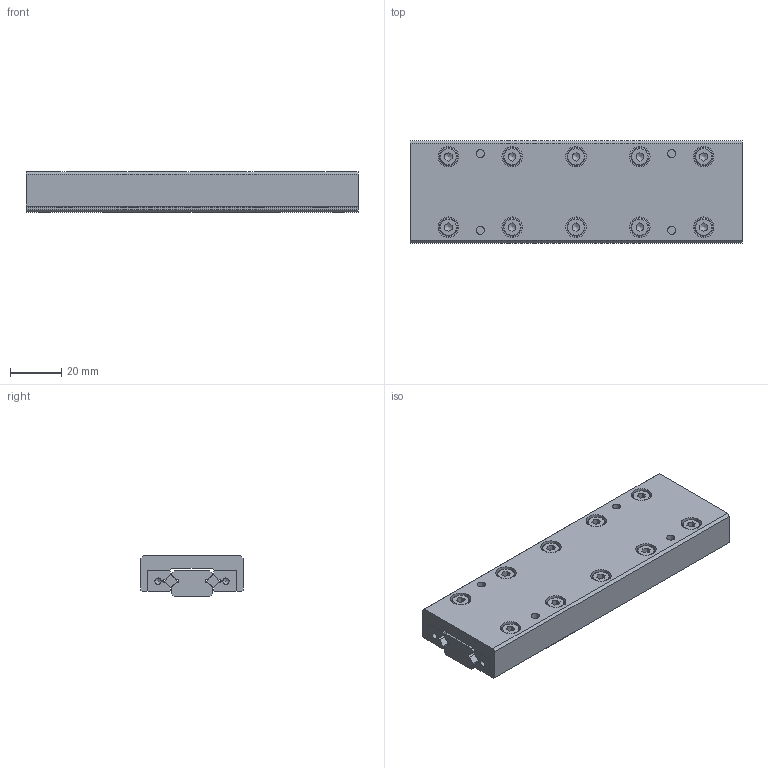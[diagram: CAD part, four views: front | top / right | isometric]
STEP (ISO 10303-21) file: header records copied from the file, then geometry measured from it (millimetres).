
FILE_DESCRIPTION((''),'2;1');
FILE_NAME('D:\製品 (図面)\カタログ用3D\リニアガイド関連\STEP形式\CRT3\CRT3130.stp','2010-07-29T15:49:26',('Tsuchiya'),(''),'Autodesk Inventor 10','Autodesk Inventor 10','');
FILE_SCHEMA(('AUTOMOTIVE_DESIGN { 1 0 10303 214 1 1 1 1 }'));
Length unit declared in the file: millimetre
Products named in the file (5): CRT3130; CRT31301; CRT31302; CRT31303; CRT31304
Assembly tree (4 placements, depth 2):
  CRT3130
    CRT31301
    CRT31302
    CRT31303
    CRT31304
Bounding box: 130 x 40 x 16 mm (x, y, z)
Volume: 68510.4 mm3; surface area: 33209.7 mm2
Topology: 4 solids, 14 shells, 367 faces, 838 edges, 552 vertices
Faces by surface type: plane 226, bspline 73, cylinder 36, cone 32
Full cylindrical faces by diameter (mm): 2.459 x2, 4 x20, 7 x10
Entity records: 10078 total; most frequent: CARTESIAN_POINT 2585, DIRECTION 1416, ORIENTED_EDGE 1372, EDGE_CURVE 686, EDGE_LOOP 566, VERTEX_POINT 512, AXIS2_PLACEMENT_3D 487, VECTOR 442
